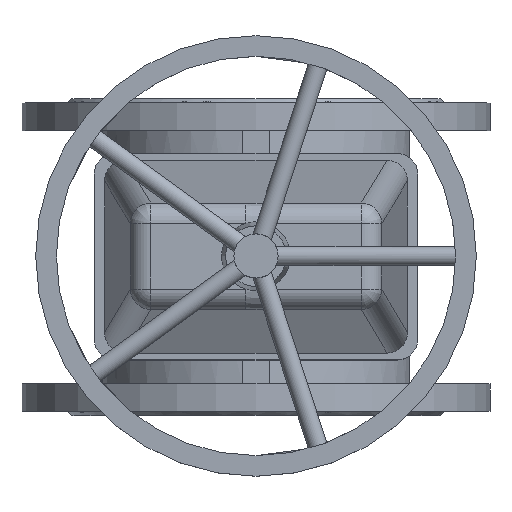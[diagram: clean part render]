
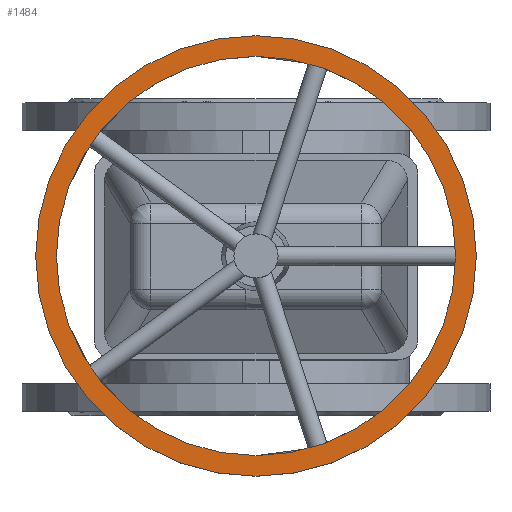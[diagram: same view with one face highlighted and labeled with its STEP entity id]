
A CAD part, top view. The second image highlights one B-rep face of the part: STEP entity #1484.
In plain terms, the highlighted planar face has unit normal (0, 0, 1).
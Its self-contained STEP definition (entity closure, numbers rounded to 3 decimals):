
#1484=ADVANCED_FACE('',(#3162,#3164),#3166,.T.);
#3162=FACE_BOUND('',#3163,.T.);
#3163=EDGE_LOOP('',(#4095));
#3164=FACE_BOUND('',#3165,.T.);
#3165=EDGE_LOOP('',(#4096));
#3166=PLANE('',#3167);
#3167=AXIS2_PLACEMENT_3D('',#3168,#3169,#3170);
#3168=CARTESIAN_POINT('',(0.,0.,524.5));
#3169=DIRECTION('',(0.,0.,1.));
#3170=DIRECTION('',(0.,-1.,0.));
#4095=ORIENTED_EDGE('',*,*,#4555,.T.);
#4096=ORIENTED_EDGE('',*,*,#4553,.T.);
#4553=EDGE_CURVE('',#5309,#5309,#5310,.F.);
#4555=EDGE_CURVE('',#5313,#5313,#5314,.T.);
#5309=VERTEX_POINT('',#10102);
#5310=CIRCLE('',#10103,145.);
#5313=VERTEX_POINT('',#10112);
#5314=CIRCLE('',#10113,160.);
#10102=CARTESIAN_POINT('',(0.,-145.,524.5));
#10103=AXIS2_PLACEMENT_3D('',#10104,#10105,#10106);
#10104=CARTESIAN_POINT('',(0.,0.,524.5));
#10105=DIRECTION('',(0.,0.,1.));
#10106=DIRECTION('',(0.,-1.,0.));
#10112=CARTESIAN_POINT('',(0.,-160.,524.5));
#10113=AXIS2_PLACEMENT_3D('',#10114,#10115,#10116);
#10114=CARTESIAN_POINT('',(0.,0.,524.5));
#10115=DIRECTION('',(0.,0.,1.));
#10116=DIRECTION('',(0.,-1.,0.));
